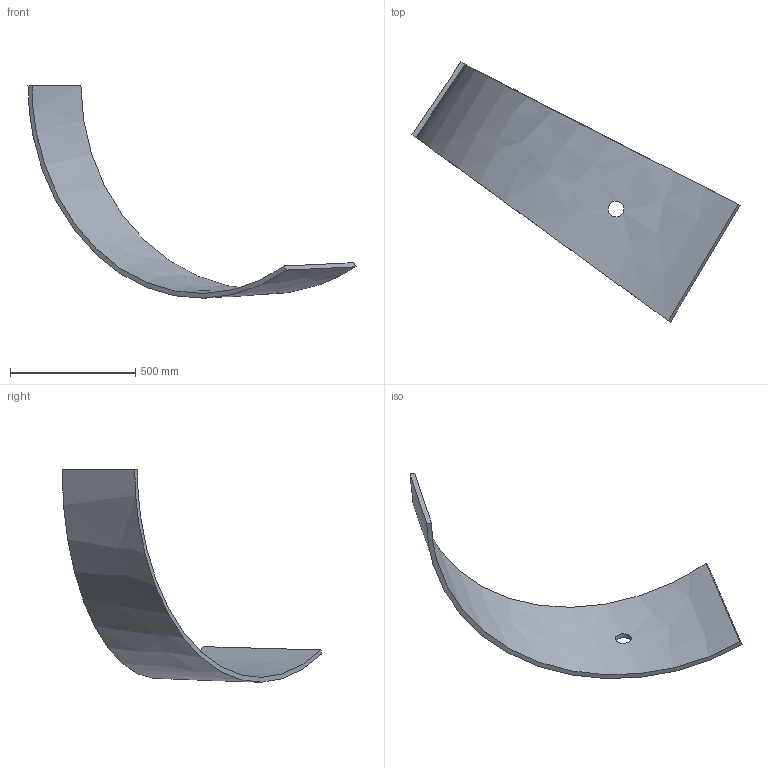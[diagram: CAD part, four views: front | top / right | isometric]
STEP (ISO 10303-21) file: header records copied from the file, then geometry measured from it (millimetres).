
FILE_DESCRIPTION (( 'STEP AP214' ), '1' );
FILE_NAME ('Section 7-A.STEP', '2025-01-09T19:43:28', ( '' ), ( '' ), 'SwSTEP 2.0', 'SolidWorks 2024', '' );
FILE_SCHEMA (( 'AUTOMOTIVE_DESIGN' ));
Length unit declared in the file: inch
Products named in the file (1): Section 7-A
Bounding box: 1308.43 x 1036.63 x 847.6 mm (x, y, z)
Volume: 14000495.3 mm3; surface area: 1556770 mm2
Topology: 1 solids, 1 shells, 7 faces, 15 edges, 10 vertices
Faces by surface type: bspline 6, cylinder 1
Full cylindrical faces by diameter (mm): 63.5 x1
Entity records: 593 total; most frequent: CARTESIAN_POINT 456, ORIENTED_EDGE 28, EDGE_CURVE 14, B_SPLINE_CURVE_WITH_KNOTS 14, VERTEX_POINT 10, EDGE_LOOP 10, FACE_OUTER_BOUND 8, ADVANCED_FACE 7
